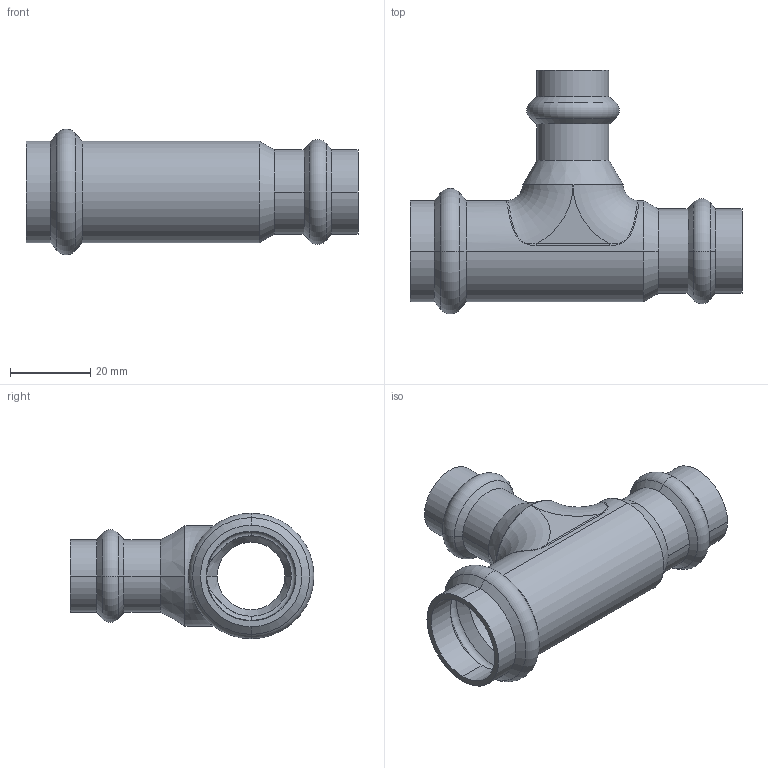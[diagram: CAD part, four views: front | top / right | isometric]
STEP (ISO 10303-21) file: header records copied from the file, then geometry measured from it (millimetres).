
FILE_DESCRIPTION (( 'STEP AP203' ), '1' );
FILE_NAME ('SP5130 Ø22-15-18.STEP', '2017-04-24T13:12:13', ( '' ), ( '' ), 'SwSTEP 2.0', 'SolidWorks 2016', '' );
FILE_SCHEMA (( 'CONFIG_CONTROL_DESIGN' ));
Length unit declared in the file: millimetre
Products named in the file (1): SP5130 Ø22-15-18
Bounding box: 82.5 x 60.6 x 31.2 mm (x, y, z)
Volume: 14774.7 mm3; surface area: 16691.2 mm2
Topology: 1 solids, 1 shells, 103 faces, 234 edges, 130 vertices
Faces by surface type: cone 36, cylinder 35, torus 20, bspline 6, plane 6
Entity records: 4461 total; most frequent: CARTESIAN_POINT 2074, DIRECTION 536, ORIENTED_EDGE 460, AXIS2_PLACEMENT_3D 232, EDGE_CURVE 230, CIRCLE 134, VERTEX_POINT 130, EDGE_LOOP 108
